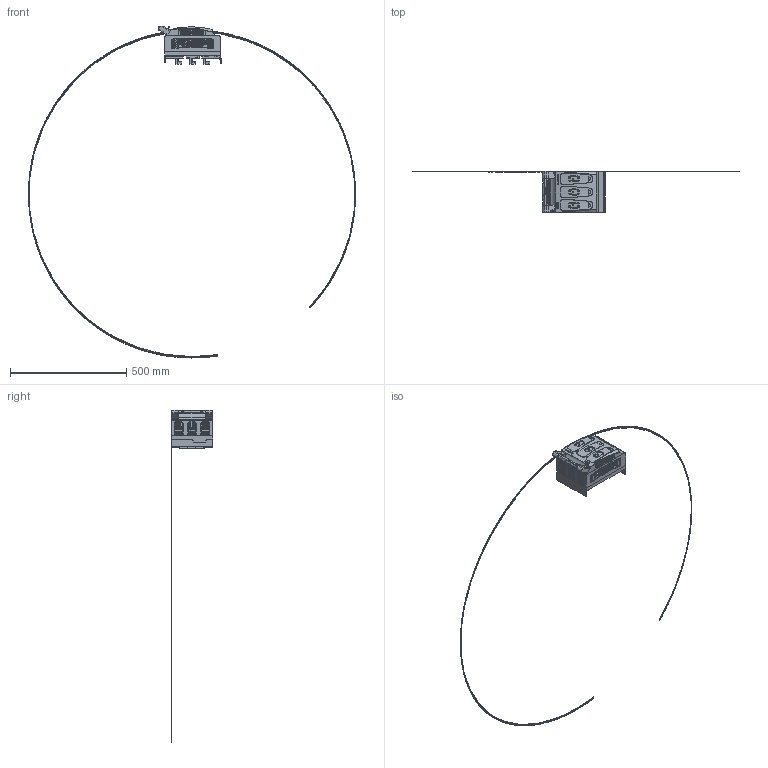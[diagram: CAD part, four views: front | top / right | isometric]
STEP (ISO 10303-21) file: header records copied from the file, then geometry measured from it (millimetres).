
FILE_DESCRIPTION(/* description */ (''),/* implementation_level */ '2;1');
FILE_NAME(/* name */ 'RBK 1-VD-S.stp',/* time_stamp */ '2020-09-04T09:35:49+02:00',/* author */ (''),/* organization */ (''),/* preprocessor_version */ 'ST-DEVELOPER v16',/* originating_system */ 'SIEMENS PLM Software NX 10.0',/* authorisation */ '');
FILE_SCHEMA (('AUTOMOTIVE_DESIGN { 1 0 10303 214 3 1 1 1 }'));
Products named in the file (1): RBK1+V druga strona
Bounding box: 1406.97 x 180.06 x 1428.62 mm (x, y, z)
Volume: 4814814.9 mm3; surface area: 358061.5 mm2
Topology: 1 solids, 8 shells, 2706 faces, 7201 edges, 4594 vertices
Faces by surface type: plane 1778, bspline 335, cylinder 329, cone 119, torus 75, extrusion 28, sphere 24, revolution 18
Entity records: 99783 total; most frequent: CARTESIAN_POINT 34028, ORIENTED_EDGE 14224, DIRECTION 13118, EDGE_CURVE 7112, AXIS2_PLACEMENT_3D 4616, VERTEX_POINT 4576, VECTOR 3868, LINE 3840
